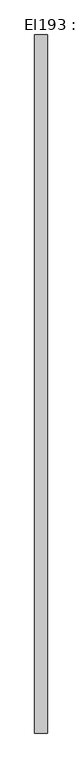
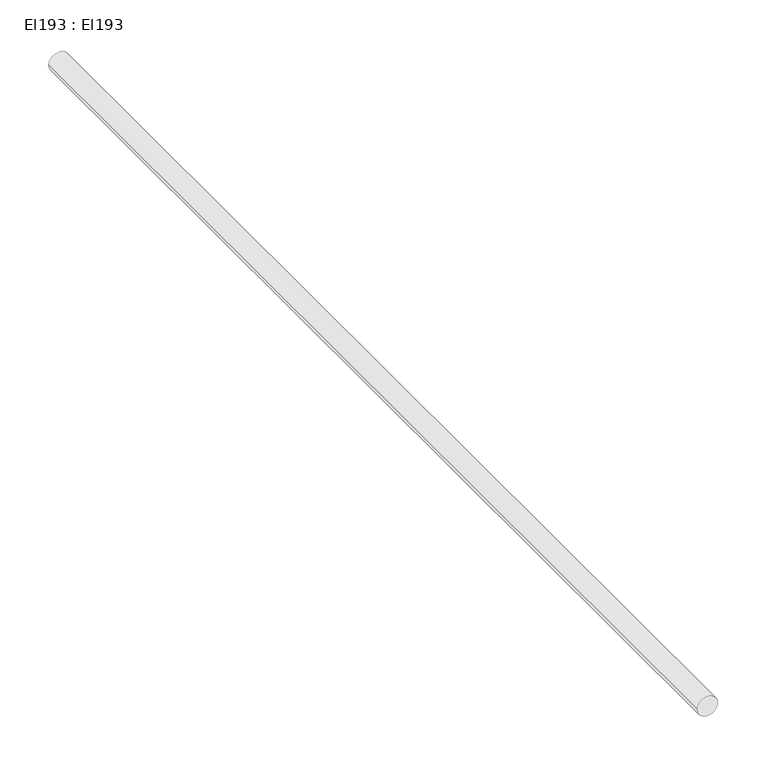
"""IFC4 building model written with IfcOpenShell, lengths in millimetres: cable carrier segment geometry, El193 : El193."""

from ifc_helpers import new_model, si_unit, point, frame, frame_2d, origin, place, context, project, spatial, circle_curve, trimmed, segment, composite_curve, outline, extrude, source, transform, mapped, element, save


def el193_el193_50439701(model_context):
    return source(origin(), model_context, "Body", "SweptSolid", [
        extrude(outline(composite_curve([segment(trimmed(circle_curve(frame_2d((2950.0, 11655.0)), 12.0), [point((2950.0, 11643.0))], [point((2950.0, 11667.0))], False, "CARTESIAN"), True, "CONTINUOUS"), segment(trimmed(circle_curve(frame_2d((2950.0, 11655.0)), 12.0), [point((2950.0, 11667.0))], [point((2950.0, 11643.0))], False, "CARTESIAN"), True, "CONTINUOUS")], self_intersect=False)), frame((0.0, 32183.8, 0.0), z_axis=(0.0, 1.0, 0.0), x_axis=(0.0, 0.0, 1.0)), (0.0, 0.0, 1.0), 1325.0),
    ])


if __name__ == "__main__":
    model = new_model("IFC4")
    model_context = context("Model", 3, world=origin())
    ifc_project = project(units=[si_unit("LENGTHUNIT", "METRE", prefix="MILLI")], contexts=[model_context])
    site = spatial("IfcSite", under=ifc_project)
    building = spatial("IfcBuilding", under=site)
    placement = place(None, origin())
    el193_el193_shape = el193_el193_50439701(model_context)
    element("IfcCableCarrierSegment", 1, ObjectType="El193 : El193", at=placement, inside=building, context=model_context, shape_type="MappedRepresentation", body=[
        mapped(el193_el193_shape, transform((0.0, 0.0, 0.0), x_axis=(1.0, 0.0, 0.0), y_axis=(0.0, 1.0, 0.0), z_axis=(0.0, 0.0, 1.0))),
    ])
    save(model, "model.ifc")
